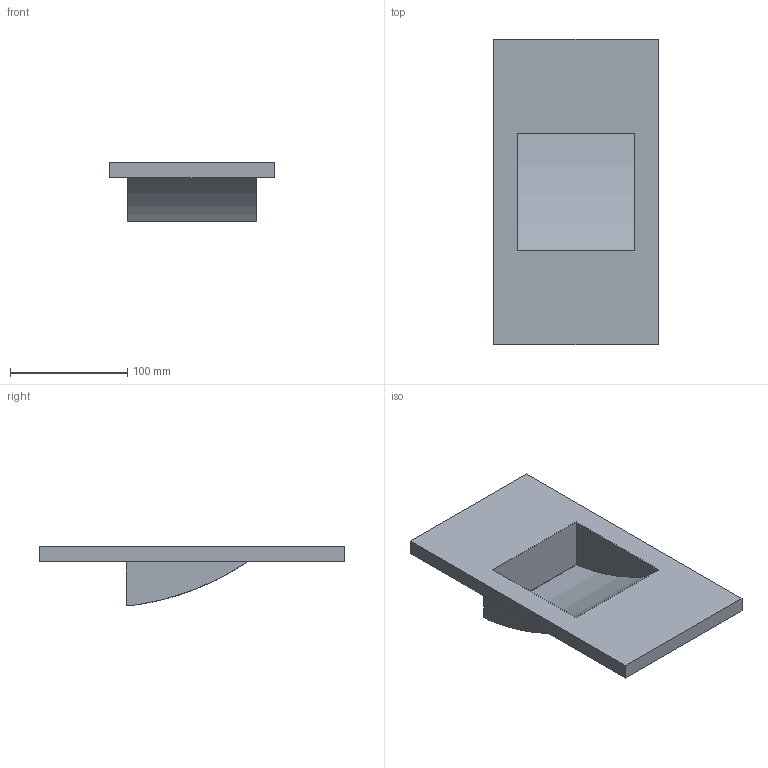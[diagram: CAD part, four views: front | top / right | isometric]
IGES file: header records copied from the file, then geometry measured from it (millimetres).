
Start section: SolidWorks IGES file using analytic representation for surfaces
Global section: file name: C:\Users\Stagiaire\Desktop\Rendu 3D\SQUARE\1967 SQUARE.IGS; native system: SolidWorks 2014; preprocessor: SolidWorks 2014; author: Stagiaire; date: 140912.113446; units: millimetre
Bounding box: 140 x 260 x 50 mm (x, y, z)
Surface area: 104839.8 mm2 (no closed solid volume)
Topology: 0 solids, 0 shells, 17 faces, 106 edges, 106 vertices
Faces by surface type: bspline 14, revolution 3
